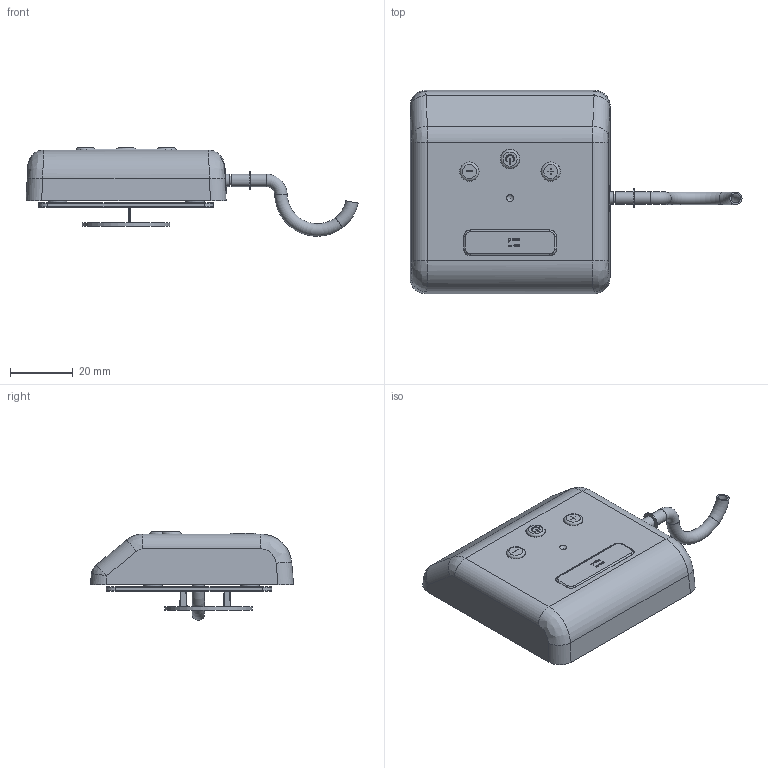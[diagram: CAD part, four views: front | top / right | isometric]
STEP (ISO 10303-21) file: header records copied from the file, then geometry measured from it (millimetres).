
FILE_DESCRIPTION(/* description */ (''),/* implementation_level */ '2;1');
FILE_NAME(/* name */ '教师组样题1.stp',/* time_stamp */ '2023-04-14T22:42:28+08:00',/* author */ (''),/* organization */ (''),/* preprocessor_version */ 'ST-DEVELOPER v16.7',/* originating_system */ 'SIEMENS PLM Software NX 12.0',/* authorisation */ '');
FILE_SCHEMA (('AUTOMOTIVE_DESIGN { 1 0 10303 214 3 1 1 1 }'));
Length unit declared in the file: millimetre
Products named in the file (1): 教师组样题1_stp
Bounding box: 106.21 x 65.02 x 28.31 mm (x, y, z)
Volume: 20233.6 mm3; surface area: 25256.6 mm2
Topology: 10 solids, 10 shells, 717 faces, 1803 edges, 1176 vertices
Faces by surface type: plane 303, extrusion 202, cylinder 137, bspline 34, torus 32, cone 8, sphere 1
Full cylindrical faces by diameter (mm): 0.8 x14, 1.2 x1, 3 x11, 4 x6, 4.348 x1, 6 x8, 6.2 x2, 8.3 x1, 28 x1
Entity records: 26291 total; most frequent: CARTESIAN_POINT 7472, ORIENTED_EDGE 3384, DIRECTION 2732, EDGE_CURVE 1692, VERTEX_POINT 1142, VECTOR 1120, LINE 918, EDGE_LOOP 914
